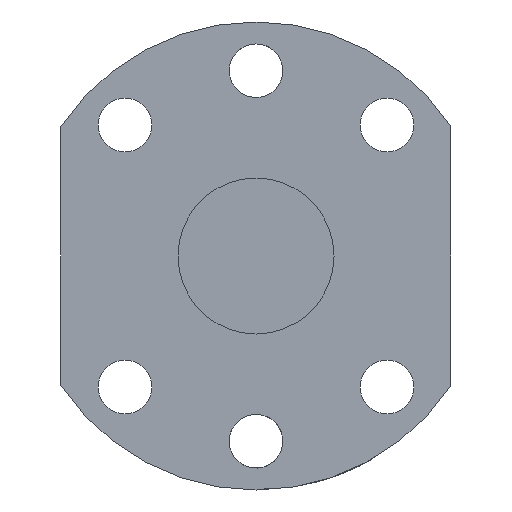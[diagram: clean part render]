
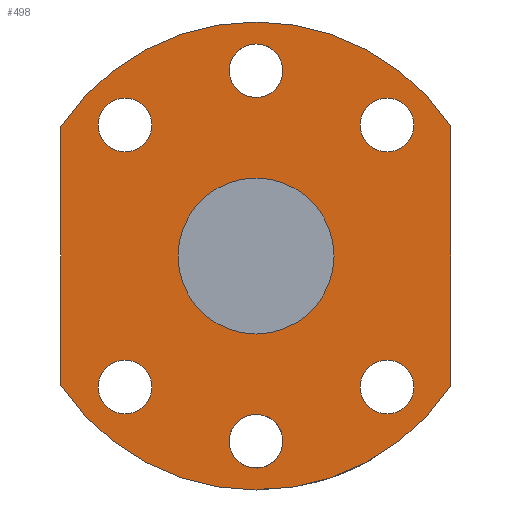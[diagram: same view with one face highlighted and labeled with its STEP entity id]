
A CAD part, front view. The second image highlights one B-rep face of the part: STEP entity #498.
In plain terms, the highlighted planar face has unit normal (0, -1, 0).
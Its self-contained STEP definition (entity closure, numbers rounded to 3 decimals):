
#7 = CARTESIAN_POINT ( 'NONE',  ( 20., -22.5, 13.266 ) ) ;
#17 = DIRECTION ( 'NONE',  ( -1., 0., 0. ) ) ;
#19 = AXIS2_PLACEMENT_3D ( 'NONE', #70, #115, #357 ) ;
#23 = DIRECTION ( 'NONE',  ( 1., 0., 0. ) ) ;
#33 = CARTESIAN_POINT ( 'NONE',  ( -20., -22.5, -13.266 ) ) ;
#35 = ORIENTED_EDGE ( 'NONE', *, *, #285, .F. ) ;
#38 = AXIS2_PLACEMENT_3D ( 'NONE', #143, #264, #17 ) ;
#42 = VERTEX_POINT ( 'NONE', #266 ) ;
#43 = DIRECTION ( 'NONE',  ( 0., -1., 0. ) ) ;
#44 = DIRECTION ( 'NONE',  ( 0., 1., 0. ) ) ;
#53 = CARTESIAN_POINT ( 'NONE',  ( -1.945, -22.5, -17.055 ) ) ;
#57 = CARTESIAN_POINT ( 'NONE',  ( 0., -22.5, 0. ) ) ;
#59 = VERTEX_POINT ( 'NONE', #484 ) ;
#61 = ORIENTED_EDGE ( 'NONE', *, *, #383, .F. ) ;
#65 = VERTEX_POINT ( 'NONE', #433 ) ;
#68 = DIRECTION ( 'NONE',  ( 1., 0., 0. ) ) ;
#70 = CARTESIAN_POINT ( 'NONE',  ( 13.435, -22.5, 13.435 ) ) ;
#71 = ORIENTED_EDGE ( 'NONE', *, *, #77, .T. ) ;
#72 = ORIENTED_EDGE ( 'NONE', *, *, #638, .F. ) ;
#74 = VERTEX_POINT ( 'NONE', #661 ) ;
#76 = VERTEX_POINT ( 'NONE', #252 ) ;
#77 = EDGE_CURVE ( 'NONE', #610, #610, #586, .T. ) ;
#106 = EDGE_CURVE ( 'NONE', #74, #74, #318, .T. ) ;
#113 = VERTEX_POINT ( 'NONE', #712 ) ;
#115 = DIRECTION ( 'NONE',  ( 0., -1., 0. ) ) ;
#129 = LINE ( 'NONE', #7, #319 ) ;
#130 = CARTESIAN_POINT ( 'NONE',  ( -13.435, -22.5, -10.685 ) ) ;
#132 = CIRCLE ( 'NONE', #19, 2.75 ) ;
#134 = EDGE_LOOP ( 'NONE', ( #72 ) ) ;
#137 = CARTESIAN_POINT ( 'NONE',  ( 10.685, -22.5, 13.435 ) ) ;
#141 = DIRECTION ( 'NONE',  ( 0., 1., 0. ) ) ;
#143 = CARTESIAN_POINT ( 'NONE',  ( 13.435, -22.5, -13.435 ) ) ;
#158 = AXIS2_PLACEMENT_3D ( 'NONE', #578, #43, #284 ) ;
#160 = CARTESIAN_POINT ( 'NONE',  ( -13.435, -22.5, -13.435 ) ) ;
#173 = CIRCLE ( 'NONE', #158, 2.75 ) ;
#174 = DIRECTION ( 'NONE',  ( 0., -1., 0. ) ) ;
#189 = FACE_BOUND ( 'NONE', #342, .T. ) ;
#194 = VERTEX_POINT ( 'NONE', #137 ) ;
#196 = ORIENTED_EDGE ( 'NONE', *, *, #305, .F. ) ;
#198 = EDGE_CURVE ( 'NONE', #194, #194, #132, .T. ) ;
#205 = DIRECTION ( 'NONE',  ( 0., 0., 1. ) ) ;
#230 = EDGE_LOOP ( 'NONE', ( #706 ) ) ;
#237 = FACE_BOUND ( 'NONE', #442, .T. ) ;
#242 = AXIS2_PLACEMENT_3D ( 'NONE', #321, #483, #429 ) ;
#252 = CARTESIAN_POINT ( 'NONE',  ( -20., -22.5, -13.266 ) ) ;
#257 = CARTESIAN_POINT ( 'NONE',  ( 0., -22.5, 0. ) ) ;
#264 = DIRECTION ( 'NONE',  ( 0., 1., 0. ) ) ;
#266 = CARTESIAN_POINT ( 'NONE',  ( -20., -22.5, 13.266 ) ) ;
#277 = EDGE_CURVE ( 'NONE', #539, #539, #511, .T. ) ;
#282 = AXIS2_PLACEMENT_3D ( 'NONE', #516, #174, #450 ) ;
#284 = DIRECTION ( 'NONE',  ( 0., 0., -1. ) ) ;
#285 = EDGE_CURVE ( 'NONE', #42, #65, #664, .T. ) ;
#297 = EDGE_LOOP ( 'NONE', ( #35, #196, #61, #311 ) ) ;
#305 = EDGE_CURVE ( 'NONE', #76, #42, #621, .T. ) ;
#306 = EDGE_LOOP ( 'NONE', ( #314 ) ) ;
#308 = PLANE ( 'NONE',  #683 ) ;
#311 = ORIENTED_EDGE ( 'NONE', *, *, #509, .F. ) ;
#314 = ORIENTED_EDGE ( 'NONE', *, *, #419, .F. ) ;
#318 = CIRCLE ( 'NONE', #396, 8. ) ;
#319 = VECTOR ( 'NONE', #359, 1000. ) ;
#321 = CARTESIAN_POINT ( 'NONE',  ( 0., -22.5, -19. ) ) ;
#337 = DIRECTION ( 'NONE',  ( 0., 1., 0. ) ) ;
#342 = EDGE_LOOP ( 'NONE', ( #398 ) ) ;
#346 = FACE_BOUND ( 'NONE', #134, .T. ) ;
#353 = CIRCLE ( 'NONE', #282, 2.75 ) ;
#356 = VERTEX_POINT ( 'NONE', #130 ) ;
#357 = DIRECTION ( 'NONE',  ( -1., 0., 0. ) ) ;
#359 = DIRECTION ( 'NONE',  ( 0., 0., -1. ) ) ;
#362 = EDGE_LOOP ( 'NONE', ( #696 ) ) ;
#363 = DIRECTION ( 'NONE',  ( 0., 1., 0. ) ) ;
#378 = DIRECTION ( 'NONE',  ( 0., 1., 0. ) ) ;
#379 = DIRECTION ( 'NONE',  ( 0., 0., 1. ) ) ;
#383 = EDGE_CURVE ( 'NONE', #597, #76, #430, .T. ) ;
#387 = AXIS2_PLACEMENT_3D ( 'NONE', #160, #44, #691 ) ;
#396 = AXIS2_PLACEMENT_3D ( 'NONE', #673, #141, #379 ) ;
#398 = ORIENTED_EDGE ( 'NONE', *, *, #277, .T. ) ;
#419 = EDGE_CURVE ( 'NONE', #113, #113, #353, .T. ) ;
#428 = VECTOR ( 'NONE', #205, 1000. ) ;
#429 = DIRECTION ( 'NONE',  ( -0.707, 0., 0.707 ) ) ;
#430 = CIRCLE ( 'NONE', #757, 24. ) ;
#433 = CARTESIAN_POINT ( 'NONE',  ( 20., -22.5, 13.266 ) ) ;
#442 = EDGE_LOOP ( 'NONE', ( #71 ) ) ;
#450 = DIRECTION ( 'NONE',  ( -0.707, 0., -0.707 ) ) ;
#455 = EDGE_CURVE ( 'NONE', #356, #356, #630, .T. ) ;
#456 = FACE_BOUND ( 'NONE', #306, .T. ) ;
#474 = AXIS2_PLACEMENT_3D ( 'NONE', #257, #378, #23 ) ;
#479 = FACE_OUTER_BOUND ( 'NONE', #297, .T. ) ;
#483 = DIRECTION ( 'NONE',  ( 0., 1., 0. ) ) ;
#484 = CARTESIAN_POINT ( 'NONE',  ( -13.435, -22.5, 10.685 ) ) ;
#498 = ADVANCED_FACE ( 'NONE', ( #643, #456, #346, #189, #237, #583, #479, #545 ), #308, .F. ) ;
#508 = DIRECTION ( 'NONE',  ( 1., 0., 0. ) ) ;
#509 = EDGE_CURVE ( 'NONE', #65, #597, #129, .T. ) ;
#511 = CIRCLE ( 'NONE', #38, 2.75 ) ;
#516 = CARTESIAN_POINT ( 'NONE',  ( 0., -22.5, 19. ) ) ;
#534 = EDGE_LOOP ( 'NONE', ( #548 ) ) ;
#539 = VERTEX_POINT ( 'NONE', #772 ) ;
#545 = FACE_BOUND ( 'NONE', #362, .T. ) ;
#548 = ORIENTED_EDGE ( 'NONE', *, *, #455, .T. ) ;
#578 = CARTESIAN_POINT ( 'NONE',  ( -13.435, -22.5, 13.435 ) ) ;
#583 = FACE_BOUND ( 'NONE', #534, .T. ) ;
#586 = CIRCLE ( 'NONE', #242, 2.75 ) ;
#597 = VERTEX_POINT ( 'NONE', #693 ) ;
#610 = VERTEX_POINT ( 'NONE', #53 ) ;
#621 = LINE ( 'NONE', #33, #428 ) ;
#630 = CIRCLE ( 'NONE', #387, 2.75 ) ;
#638 = EDGE_CURVE ( 'NONE', #59, #59, #173, .T. ) ;
#643 = FACE_BOUND ( 'NONE', #230, .T. ) ;
#661 = CARTESIAN_POINT ( 'NONE',  ( 0., -22.5, 8. ) ) ;
#664 = CIRCLE ( 'NONE', #474, 24. ) ;
#673 = CARTESIAN_POINT ( 'NONE',  ( 0., -22.5, 0. ) ) ;
#683 = AXIS2_PLACEMENT_3D ( 'NONE', #57, #363, #68 ) ;
#691 = DIRECTION ( 'NONE',  ( 0., 0., 1. ) ) ;
#693 = CARTESIAN_POINT ( 'NONE',  ( 20., -22.5, -13.266 ) ) ;
#695 = CARTESIAN_POINT ( 'NONE',  ( 0., -22.5, 0. ) ) ;
#696 = ORIENTED_EDGE ( 'NONE', *, *, #106, .T. ) ;
#706 = ORIENTED_EDGE ( 'NONE', *, *, #198, .F. ) ;
#712 = CARTESIAN_POINT ( 'NONE',  ( -1.945, -22.5, 17.055 ) ) ;
#757 = AXIS2_PLACEMENT_3D ( 'NONE', #695, #337, #508 ) ;
#772 = CARTESIAN_POINT ( 'NONE',  ( 10.685, -22.5, -13.435 ) ) ;
